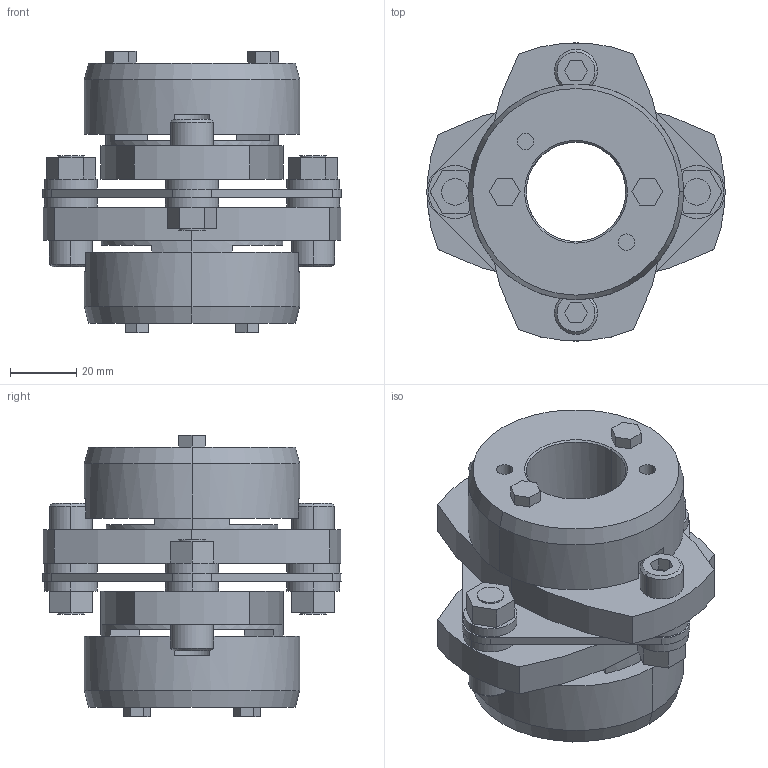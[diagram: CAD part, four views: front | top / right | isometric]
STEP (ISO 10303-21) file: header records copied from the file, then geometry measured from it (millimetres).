
FILE_DESCRIPTION((''),'2;1');
FILE_NAME('LCS-90T7-30×35.stp','2011-09-09T10:17:42',(''),(''),'AutoCAD STEP 2000i','AutoCAD 2000i',', , ');
FILE_SCHEMA(('CONFIG_CONTROL_DESIGN'));
Length unit declared in the file: millimetre
Products named in the file (13): LCS-90T7-30×35; 忣兜1; LC90T7-T035; LC90T7-T032; LC90T7-T030-1; LC90T7-T030; LC90T7-T025-1; LC90T7-T025; LC90T7-T019-1; LC90T7-T019; LC90-B019-1; LC90-B019; LCS90-ITA
Assembly tree (12 placements, depth 2):
  LCS-90T7-30×35
    忣兜1
    LC90T7-T035
    LC90T7-T032
    LC90T7-T030-1
    LC90T7-T030
    LC90T7-T025-1
    LC90T7-T025
    LC90T7-T019-1
    LC90T7-T019
    LC90-B019-1
    LC90-B019
    LCS90-ITA
Bounding box: 90 x 89.94 x 84.8 mm (x, y, z)
Volume: 199594.2 mm3; surface area: 53674 mm2
Topology: 1 solids, 1 shells, 241 faces, 592 edges, 386 vertices
Faces by surface type: plane 137, cylinder 84, cone 20
Entity records: 7429 total; most frequent: DIRECTION 1312, CARTESIAN_POINT 1232, ORIENTED_EDGE 1184, EDGE_CURVE 592, AXIS2_PLACEMENT_3D 466, VERTEX_POINT 386, VECTOR 380, LINE 380
